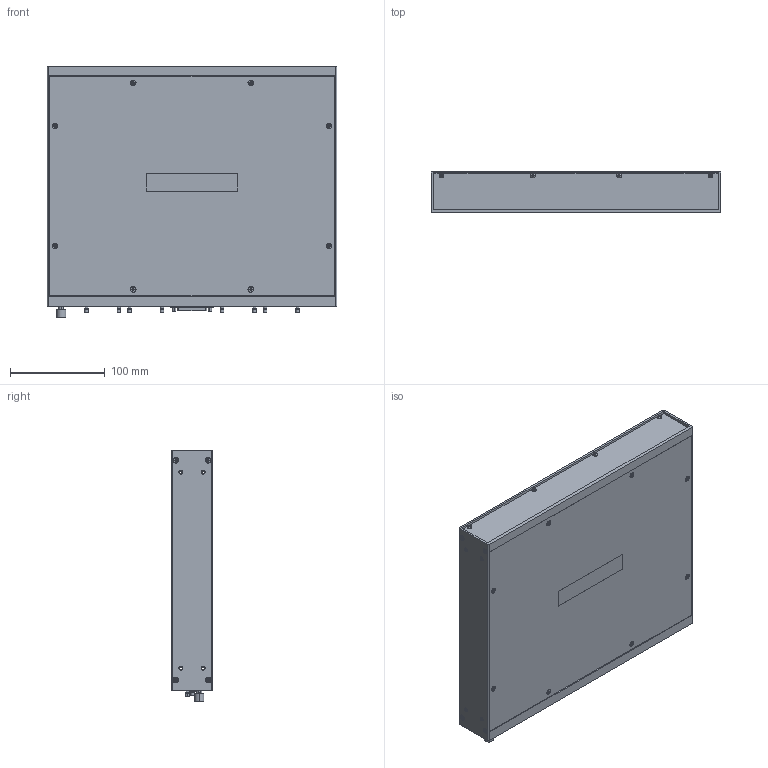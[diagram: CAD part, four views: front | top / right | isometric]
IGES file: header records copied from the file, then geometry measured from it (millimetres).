
Start section:  PTC IGES file: cu_smb-2147.igs
Global section: file name: cu_smb-2147.igs; native system: Pro/ENGINEER by Parametric Technology Corporation; preprocessor: 2006080; author: jjorden; organization: Unknown; date: 100614.151124; units: inch
Bounding box: 306.32 x 43.94 x 266.42 mm (x, y, z)
Surface area: 470296.4 mm2 (no closed solid volume)
Topology: 0 solids, 0 shells, 3061 faces, 14736 edges, 14224 vertices
Faces by surface type: bspline 1911, revolution 1150
